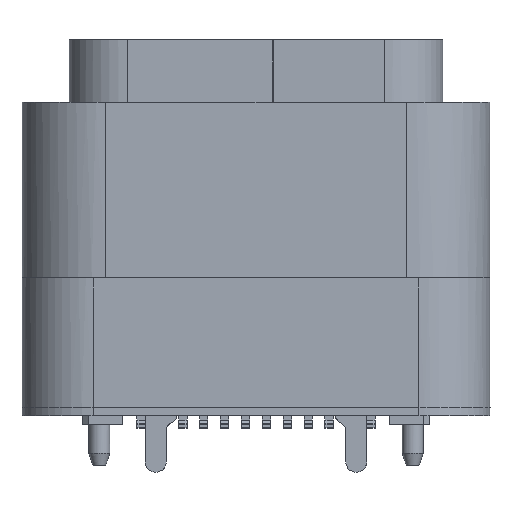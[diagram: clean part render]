
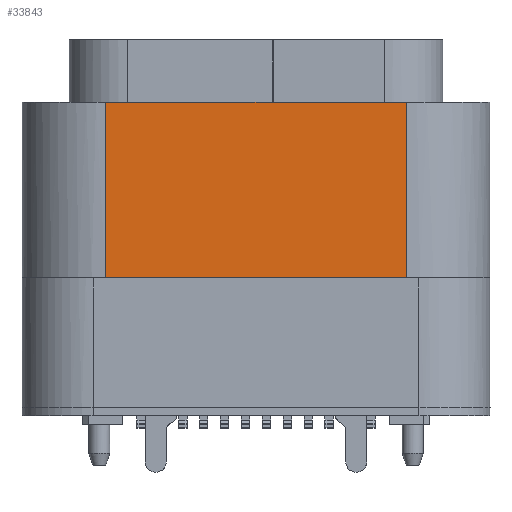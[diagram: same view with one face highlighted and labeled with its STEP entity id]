
A CAD part, front view. The second image highlights one B-rep face of the part: STEP entity #33843.
In plain terms, the highlighted planar face has unit normal (0, -1, 0).
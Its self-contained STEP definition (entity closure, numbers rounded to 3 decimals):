
#763 = EDGE_CURVE ( 'NONE', #18315, #36914, #39905, .T. ) ;
#820 = CARTESIAN_POINT ( 'NONE',  ( 1.2, -2.575, 3.5 ) ) ;
#2786 = VERTEX_POINT ( 'NONE', #16450 ) ;
#3112 = PLANE ( 'NONE',  #23940 ) ;
#3712 = CARTESIAN_POINT ( 'NONE',  ( 3.6, -2.575, 3.5 ) ) ;
#4107 = CARTESIAN_POINT ( 'NONE',  ( -3.6, -2.575, 6.3 ) ) ;
#4123 = ORIENTED_EDGE ( 'NONE', *, *, #22463, .T. ) ;
#4236 = CARTESIAN_POINT ( 'NONE',  ( -1.2, -2.575, 3.5 ) ) ;
#5423 = CARTESIAN_POINT ( 'NONE',  ( 3.6, -2.575, 3.5 ) ) ;
#6034 = ORIENTED_EDGE ( 'NONE', *, *, #763, .T. ) ;
#7313 = CARTESIAN_POINT ( 'NONE',  ( 1.2, -2.575, 7.7 ) ) ;
#7490 = B_SPLINE_CURVE_WITH_KNOTS ( 'NONE', 3,
 ( #15948, #4236, #820, #13318 ),
 .UNSPECIFIED., .F., .F.,
 ( 4, 4 ),
 ( 0., 1. ),
 .UNSPECIFIED. ) ;
#7706 = CARTESIAN_POINT ( 'NONE',  ( -3.6, -2.575, 7.7 ) ) ;
#8522 = CARTESIAN_POINT ( 'NONE',  ( -3.6, -2.575, 7.7 ) ) ;
#8637 = EDGE_LOOP ( 'NONE', ( #4123, #21991, #6034, #30721 ) ) ;
#11598 = CARTESIAN_POINT ( 'NONE',  ( 3.6, -2.575, 7.7 ) ) ;
#12608 = CARTESIAN_POINT ( 'NONE',  ( 3.6, -2.575, 7.7 ) ) ;
#13318 = CARTESIAN_POINT ( 'NONE',  ( 3.6, -2.575, 3.5 ) ) ;
#15207 = B_SPLINE_CURVE_WITH_KNOTS ( 'NONE', 3,
 ( #19279, #4107, #27687, #37008 ),
 .UNSPECIFIED., .F., .F.,
 ( 4, 4 ),
 ( 0., 1. ),
 .UNSPECIFIED. ) ;
#15948 = CARTESIAN_POINT ( 'NONE',  ( -3.6, -2.575, 3.5 ) ) ;
#16450 = CARTESIAN_POINT ( 'NONE',  ( -3.6, -2.575, 3.5 ) ) ;
#17124 = EDGE_CURVE ( 'NONE', #18315, #30412, #26504, .T. ) ;
#17556 = CARTESIAN_POINT ( 'NONE',  ( 3.6, -2.575, 7.7 ) ) ;
#18315 = VERTEX_POINT ( 'NONE', #11598 ) ;
#18463 = CARTESIAN_POINT ( 'NONE',  ( -3.744, -2.575, 3.416 ) ) ;
#18570 = EDGE_CURVE ( 'NONE', #36914, #2786, #15207, .T. ) ;
#19279 = CARTESIAN_POINT ( 'NONE',  ( -3.6, -2.575, 7.7 ) ) ;
#21114 = DIRECTION ( 'NONE',  ( 0., -1., 0. ) ) ;
#21991 = ORIENTED_EDGE ( 'NONE', *, *, #17124, .F. ) ;
#22463 = EDGE_CURVE ( 'NONE', #2786, #30412, #7490, .T. ) ;
#23090 = CARTESIAN_POINT ( 'NONE',  ( -1.2, -2.575, 7.7 ) ) ;
#23940 = AXIS2_PLACEMENT_3D ( 'NONE', #18463, #21114, #37100 ) ;
#26504 = B_SPLINE_CURVE_WITH_KNOTS ( 'NONE', 1,
 ( #17556, #5423 ),
 .UNSPECIFIED., .F., .F.,
 ( 2, 2 ),
 ( 0., 1. ),
 .UNSPECIFIED. ) ;
#27687 = CARTESIAN_POINT ( 'NONE',  ( -3.6, -2.575, 4.9 ) ) ;
#30412 = VERTEX_POINT ( 'NONE', #3712 ) ;
#30721 = ORIENTED_EDGE ( 'NONE', *, *, #18570, .T. ) ;
#33843 = ADVANCED_FACE ( 'NONE', ( #33852 ), #3112, .T. ) ;
#33852 = FACE_OUTER_BOUND ( 'NONE', #8637, .T. ) ;
#36914 = VERTEX_POINT ( 'NONE', #8522 ) ;
#37008 = CARTESIAN_POINT ( 'NONE',  ( -3.6, -2.575, 3.5 ) ) ;
#37100 = DIRECTION ( 'NONE',  ( 0., 0., -1. ) ) ;
#39905 = B_SPLINE_CURVE_WITH_KNOTS ( 'NONE', 3,
 ( #12608, #7313, #23090, #7706 ),
 .UNSPECIFIED., .F., .F.,
 ( 4, 4 ),
 ( 0., 1. ),
 .UNSPECIFIED. ) ;
